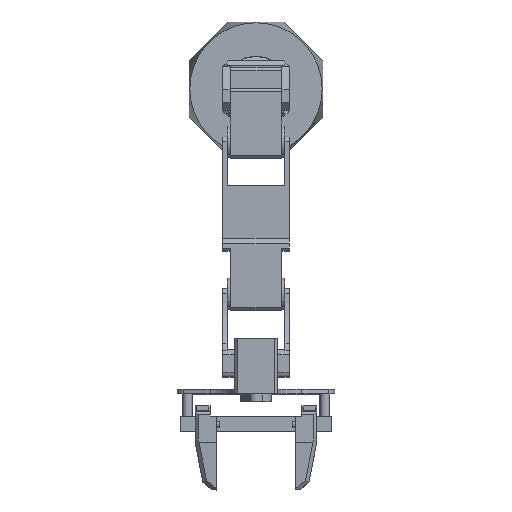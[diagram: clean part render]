
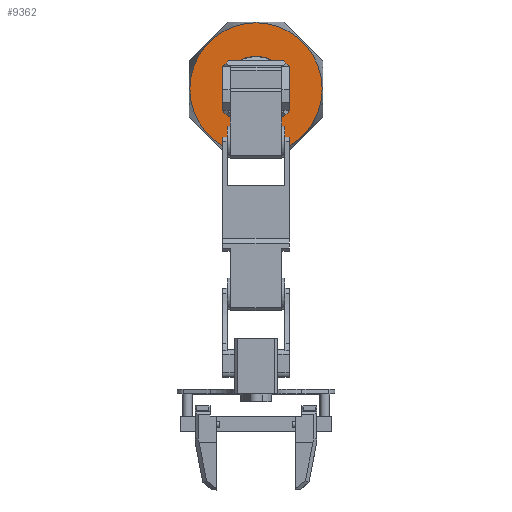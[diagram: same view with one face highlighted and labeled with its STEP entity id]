
A CAD part, top view. The second image highlights one B-rep face of the part: STEP entity #9362.
In plain terms, the highlighted planar face has unit normal (0, 0, 1).
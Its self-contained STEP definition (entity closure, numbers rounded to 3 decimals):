
#158=PLANE('',#10075);
#465=FACE_BOUND('',#1128,.T.);
#601=FACE_OUTER_BOUND('',#1127,.T.);
#1127=EDGE_LOOP('',(#6803));
#1128=EDGE_LOOP('',(#6804));
#3731=CIRCLE('',#10076,43.5);
#3732=CIRCLE('',#10077,21.431);
#4163=VERTEX_POINT('',#14326);
#4164=VERTEX_POINT('',#14328);
#5175=EDGE_CURVE('',#4163,#4163,#3731,.T.);
#5176=EDGE_CURVE('',#4164,#4164,#3732,.T.);
#6803=ORIENTED_EDGE('',*,*,#5175,.T.);
#6804=ORIENTED_EDGE('',*,*,#5176,.T.);
#9362=ADVANCED_FACE('',(#601,#465),#158,.F.);
#10075=AXIS2_PLACEMENT_3D('',#14325,#11320,#11321);
#10076=AXIS2_PLACEMENT_3D('',#14327,#11322,#11323);
#10077=AXIS2_PLACEMENT_3D('',#14329,#11324,#11325);
#11320=DIRECTION('center_axis',(0.,0.,
-1.));
#11321=DIRECTION('ref_axis',(1.,0.,0.));
#11322=DIRECTION('center_axis',(0.,0.,
1.));
#11323=DIRECTION('ref_axis',(1.,0.,0.));
#11324=DIRECTION('center_axis',(0.,0.,
-1.));
#11325=DIRECTION('ref_axis',(-1.,0.,0.));
#14325=CARTESIAN_POINT('Origin',(69.292,207.72,-229.4));
#14326=CARTESIAN_POINT('',(25.792,207.72,-229.4));
#14327=CARTESIAN_POINT('Origin',(69.292,207.72,-229.4));
#14328=CARTESIAN_POINT('',(90.723,207.72,-229.4));
#14329=CARTESIAN_POINT('Origin',(69.292,207.72,-229.4));
